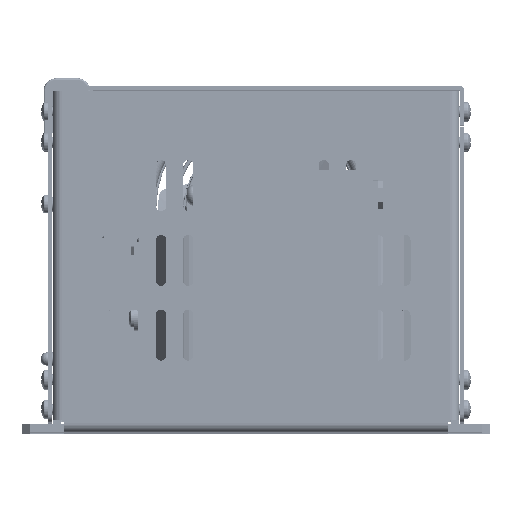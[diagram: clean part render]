
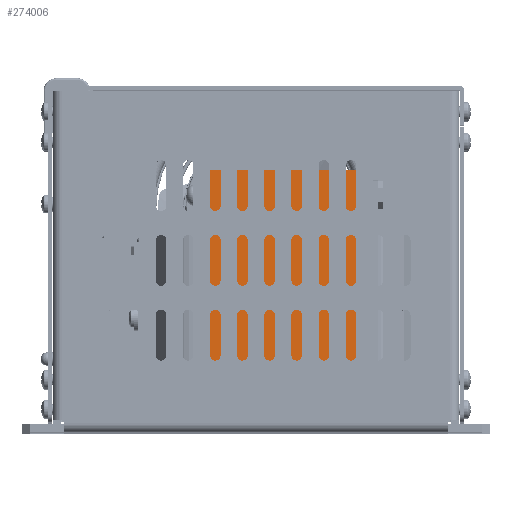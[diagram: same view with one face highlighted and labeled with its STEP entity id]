
A CAD part, top view. The second image highlights one B-rep face of the part: STEP entity #274006.
In plain terms, the highlighted planar face has unit normal (0, 0, 1).
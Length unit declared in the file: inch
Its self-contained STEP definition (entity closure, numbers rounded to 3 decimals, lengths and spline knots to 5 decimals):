
#41537 = CARTESIAN_POINT ( 'NONE',  ( 2.5, 0., 0. ) ) ;
#41701 = CARTESIAN_POINT ( 'NONE',  ( 2.5, 3.75, 0. ) ) ;
#42019 = DIRECTION ( 'NONE',  ( 0., 1., 0. ) ) ;
#42022 = CARTESIAN_POINT ( 'NONE',  ( 2.5, 0., 0. ) ) ;
#42052 = VECTOR ( 'NONE', #42019, 39.37008 ) ;
#42260 = LINE ( 'NONE', #42022, #42052 ) ;
#50380 = DIRECTION ( 'NONE',  ( -1., 0., 0. ) ) ;
#50383 = VECTOR ( 'NONE', #50380, 39.37008 ) ;
#50387 = CARTESIAN_POINT ( 'NONE',  ( 0., 3.75, 0. ) ) ;
#50402 = FACE_OUTER_BOUND ( 'NONE', #274059, .T. ) ;
#50407 = LINE ( 'NONE', #50387, #50383 ) ;
#50434 = CARTESIAN_POINT ( 'NONE',  ( 0., 3.75, 0. ) ) ;
#50584 = CARTESIAN_POINT ( 'NONE',  ( 0., 0., 0. ) ) ;
#50752 = PLANE ( 'NONE',  #50773 ) ;
#50767 = DIRECTION ( 'NONE',  ( 0., -1., 0. ) ) ;
#50769 = VECTOR ( 'NONE', #50767, 39.37008 ) ;
#50773 = AXIS2_PLACEMENT_3D ( 'NONE', #50952, #50950, #50944 ) ;
#50780 = CARTESIAN_POINT ( 'NONE',  ( 0., 0., 0. ) ) ;
#50781 = LINE ( 'NONE', #50780, #50769 ) ;
#50944 = DIRECTION ( 'NONE',  ( -1., 0., 0. ) ) ;
#50950 = DIRECTION ( 'NONE',  ( 0., 0., -1. ) ) ;
#50952 = CARTESIAN_POINT ( 'NONE',  ( 0., 3.75, 0. ) ) ;
#51311 = DIRECTION ( 'NONE',  ( 1., 0., 0. ) ) ;
#51313 = VECTOR ( 'NONE', #51311, 39.37008 ) ;
#51316 = CARTESIAN_POINT ( 'NONE',  ( 0., 0., 0. ) ) ;
#51318 = LINE ( 'NONE', #51316, #51313 ) ;
#271875 = VERTEX_POINT ( 'NONE', #41537 ) ;
#271909 = VERTEX_POINT ( 'NONE', #41701 ) ;
#272033 = EDGE_CURVE ( 'NONE', #271875, #271909, #42260, .T. ) ;
#273885 = EDGE_CURVE ( 'NONE', #271909, #273916, #50407, .T. ) ;
#273916 = VERTEX_POINT ( 'NONE', #50434 ) ;
#273922 = VERTEX_POINT ( 'NONE', #50584 ) ;
#273951 = EDGE_CURVE ( 'NONE', #273916, #273922, #50781, .T. ) ;
#273962 = ORIENTED_EDGE ( 'NONE', *, *, #273951, .T. ) ;
#273982 = ORIENTED_EDGE ( 'NONE', *, *, #273885, .T. ) ;
#274006 = ADVANCED_FACE ( 'NONE', ( #50402 ), #50752, .F. ) ;
#274059 = EDGE_LOOP ( 'NONE', ( #273962, #274086, #274237, #273982 ) ) ;
#274086 = ORIENTED_EDGE ( 'NONE', *, *, #274110, .T. ) ;
#274110 = EDGE_CURVE ( 'NONE', #273922, #271875, #51318, .T. ) ;
#274237 = ORIENTED_EDGE ( 'NONE', *, *, #272033, .T. ) ;
